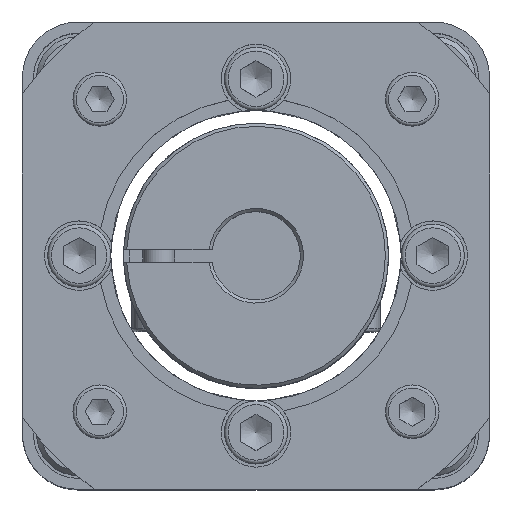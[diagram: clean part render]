
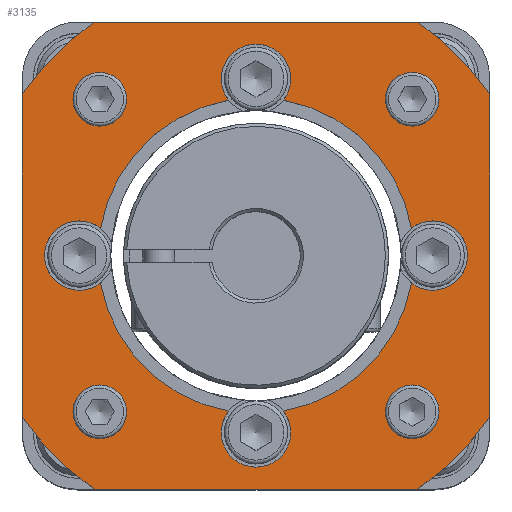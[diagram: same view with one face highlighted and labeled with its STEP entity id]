
A CAD part, top view. The second image highlights one B-rep face of the part: STEP entity #3135.
In plain terms, the highlighted planar face has unit normal (0, 0, 1).
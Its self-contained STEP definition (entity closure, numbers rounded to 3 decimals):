
#199=LINE($,#5139,#361);
#203=LINE($,#5151,#365);
#207=LINE($,#5163,#369);
#211=LINE($,#5174,#373);
#361=VECTOR($,#4178,51.225);
#365=VECTOR($,#4190,51.225);
#369=VECTOR($,#4202,51.225);
#373=VECTOR($,#4214,51.225);
#512=PLANE($,#3489);
#694=FACE_BOUND($,#1122,.T.);
#695=FACE_BOUND($,#1123,.T.);
#696=FACE_BOUND($,#1124,.T.);
#697=FACE_BOUND($,#1125,.T.);
#698=FACE_BOUND($,#1126,.T.);
#699=FACE_BOUND($,#1127,.T.);
#1122=EDGE_LOOP($,(#2547));
#1123=EDGE_LOOP($,(#2548));
#1124=EDGE_LOOP($,(#2549));
#1125=EDGE_LOOP($,(#2550));
#1126=EDGE_LOOP($,(#2551,#2552,#2553,#2554,#2555,#2556,#2557,#2558));
#1127=EDGE_LOOP($,(#2559,#2560,#2561,#2562,#2563,#2564,#2565,#2566));
#1341=CIRCLE($,#3396,2.067);
#1343=CIRCLE($,#3399,2.067);
#1345=CIRCLE($,#3402,2.067);
#1347=CIRCLE($,#3405,2.067);
#1352=CIRCLE($,#3412,5.5);
#1359=CIRCLE($,#3422,5.5);
#1366=CIRCLE($,#3432,5.5);
#1379=CIRCLE($,#3451,25.);
#1380=CIRCLE($,#3453,25.);
#1381=CIRCLE($,#3455,25.);
#1384=CIRCLE($,#3460,5.5);
#1390=CIRCLE($,#3470,25.);
#1391=CIRCLE($,#3473,45.);
#1393=CIRCLE($,#3477,45.);
#1395=CIRCLE($,#3481,45.);
#1397=CIRCLE($,#3485,45.);
#1552=VERTEX_POINT($,#4986);
#1554=VERTEX_POINT($,#4991);
#1556=VERTEX_POINT($,#4996);
#1558=VERTEX_POINT($,#5001);
#1564=VERTEX_POINT($,#5015);
#1565=VERTEX_POINT($,#5017);
#1574=VERTEX_POINT($,#5039);
#1575=VERTEX_POINT($,#5041);
#1584=VERTEX_POINT($,#5063);
#1585=VERTEX_POINT($,#5065);
#1595=VERTEX_POINT($,#5098);
#1597=VERTEX_POINT($,#5110);
#1602=VERTEX_POINT($,#5129);
#1603=VERTEX_POINT($,#5130);
#1606=VERTEX_POINT($,#5138);
#1608=VERTEX_POINT($,#5144);
#1610=VERTEX_POINT($,#5150);
#1612=VERTEX_POINT($,#5156);
#1614=VERTEX_POINT($,#5162);
#1616=VERTEX_POINT($,#5168);
#1874=EDGE_CURVE($,#1552,#1552,#1341,.T.);
#1876=EDGE_CURVE($,#1554,#1554,#1343,.T.);
#1878=EDGE_CURVE($,#1556,#1556,#1345,.T.);
#1880=EDGE_CURVE($,#1558,#1558,#1347,.T.);
#1887=EDGE_CURVE($,#1565,#1564,#1352,.T.);
#1898=EDGE_CURVE($,#1575,#1574,#1359,.T.);
#1909=EDGE_CURVE($,#1585,#1584,#1366,.T.);
#1926=EDGE_CURVE($,#1595,#1585,#1379,.T.);
#1928=EDGE_CURVE($,#1584,#1575,#1380,.T.);
#1929=EDGE_CURVE($,#1574,#1565,#1381,.T.);
#1932=EDGE_CURVE($,#1597,#1595,#1384,.T.);
#1939=EDGE_CURVE($,#1564,#1597,#1390,.T.);
#1940=EDGE_CURVE($,#1602,#1603,#1391,.T.);
#1944=EDGE_CURVE($,#1603,#1606,#199,.T.);
#1947=EDGE_CURVE($,#1606,#1608,#1393,.T.);
#1950=EDGE_CURVE($,#1608,#1610,#203,.T.);
#1953=EDGE_CURVE($,#1610,#1612,#1395,.T.);
#1956=EDGE_CURVE($,#1612,#1614,#207,.T.);
#1959=EDGE_CURVE($,#1614,#1616,#1397,.T.);
#1962=EDGE_CURVE($,#1616,#1602,#211,.T.);
#2547=ORIENTED_EDGE($,*,*,#1874,.T.);
#2548=ORIENTED_EDGE($,*,*,#1876,.T.);
#2549=ORIENTED_EDGE($,*,*,#1878,.T.);
#2550=ORIENTED_EDGE($,*,*,#1880,.T.);
#2551=ORIENTED_EDGE($,*,*,#1887,.T.);
#2552=ORIENTED_EDGE($,*,*,#1939,.T.);
#2553=ORIENTED_EDGE($,*,*,#1932,.T.);
#2554=ORIENTED_EDGE($,*,*,#1926,.T.);
#2555=ORIENTED_EDGE($,*,*,#1909,.T.);
#2556=ORIENTED_EDGE($,*,*,#1928,.T.);
#2557=ORIENTED_EDGE($,*,*,#1898,.T.);
#2558=ORIENTED_EDGE($,*,*,#1929,.T.);
#2559=ORIENTED_EDGE($,*,*,#1940,.F.);
#2560=ORIENTED_EDGE($,*,*,#1962,.F.);
#2561=ORIENTED_EDGE($,*,*,#1959,.F.);
#2562=ORIENTED_EDGE($,*,*,#1956,.F.);
#2563=ORIENTED_EDGE($,*,*,#1953,.F.);
#2564=ORIENTED_EDGE($,*,*,#1950,.F.);
#2565=ORIENTED_EDGE($,*,*,#1947,.F.);
#2566=ORIENTED_EDGE($,*,*,#1944,.F.);
#3135=ADVANCED_FACE($,(#694,#695,#696,#697,#698,#699),#512,.T.);
#3396=AXIS2_PLACEMENT_3D($,#4987,#4000,#4001);
#3399=AXIS2_PLACEMENT_3D($,#4992,#4006,#4007);
#3402=AXIS2_PLACEMENT_3D($,#4997,#4012,#4013);
#3405=AXIS2_PLACEMENT_3D($,#5002,#4018,#4019);
#3412=AXIS2_PLACEMENT_3D($,#5018,#4034,#4035);
#3422=AXIS2_PLACEMENT_3D($,#5042,#4058,#4059);
#3432=AXIS2_PLACEMENT_3D($,#5066,#4082,#4083);
#3451=AXIS2_PLACEMENT_3D($,#5099,#4124,#4125);
#3453=AXIS2_PLACEMENT_3D($,#5102,#4129,#4130);
#3455=AXIS2_PLACEMENT_3D($,#5104,#4133,#4134);
#3460=AXIS2_PLACEMENT_3D($,#5111,#4143,#4144);
#3470=AXIS2_PLACEMENT_3D($,#5126,#4164,#4165);
#3473=AXIS2_PLACEMENT_3D($,#5131,#4170,#4171);
#3477=AXIS2_PLACEMENT_3D($,#5145,#4183,#4184);
#3481=AXIS2_PLACEMENT_3D($,#5157,#4195,#4196);
#3485=AXIS2_PLACEMENT_3D($,#5169,#4207,#4208);
#3489=AXIS2_PLACEMENT_3D($,#5177,#4218,#4219);
#4000=DIRECTION('center_axis',(0.,0.,-1.));
#4001=DIRECTION('ref_axis',(0.,1.,0.));
#4006=DIRECTION('center_axis',(0.,0.,-1.));
#4007=DIRECTION('ref_axis',(-1.,0.,0.));
#4012=DIRECTION('center_axis',(0.,0.,-1.));
#4013=DIRECTION('ref_axis',(0.,-1.,0.));
#4018=DIRECTION('center_axis',(0.,0.,-1.));
#4019=DIRECTION('ref_axis',(1.,0.,0.));
#4034=DIRECTION('center_axis',(0.,0.,-1.));
#4035=DIRECTION('ref_axis',(0.,1.,0.));
#4058=DIRECTION('center_axis',(0.,0.,-1.));
#4059=DIRECTION('ref_axis',(-1.,0.,0.));
#4082=DIRECTION('center_axis',(0.,0.,-1.));
#4083=DIRECTION('ref_axis',(0.,-1.,0.));
#4124=DIRECTION('center_axis',(0.,0.,-1.));
#4125=DIRECTION('ref_axis',(-1.,0.,0.));
#4129=DIRECTION('center_axis',(0.,0.,-1.));
#4130=DIRECTION('ref_axis',(-1.,0.,0.));
#4133=DIRECTION('center_axis',(0.,0.,-1.));
#4134=DIRECTION('ref_axis',(-1.,0.,0.));
#4143=DIRECTION('center_axis',(0.,0.,-1.));
#4144=DIRECTION('ref_axis',(1.,0.,0.));
#4164=DIRECTION('center_axis',(0.,0.,-1.));
#4165=DIRECTION('ref_axis',(-1.,0.,0.));
#4170=DIRECTION('center_axis',(0.,0.,-1.));
#4171=DIRECTION('ref_axis',(1.,0.,0.));
#4178=DIRECTION($,(1.,0.,0.));
#4183=DIRECTION('center_axis',(0.,0.,-1.));
#4184=DIRECTION('ref_axis',(1.,0.,0.));
#4190=DIRECTION($,(0.,-1.,0.));
#4195=DIRECTION('center_axis',(0.,0.,-1.));
#4196=DIRECTION('ref_axis',(1.,0.,0.));
#4202=DIRECTION($,(-1.,0.,0.));
#4207=DIRECTION('center_axis',(0.,0.,-1.));
#4208=DIRECTION('ref_axis',(1.,0.,0.));
#4214=DIRECTION($,(0.,1.,0.));
#4218=DIRECTION('center_axis',(0.,0.,1.));
#4219=DIRECTION('ref_axis',(1.,0.,0.));
#4986=CARTESIAN_POINT('',(-24.749,26.816,14.));
#4987=CARTESIAN_POINT('Origin',(-24.749,24.749,14.));
#4991=CARTESIAN_POINT('',(-26.816,-24.749,14.));
#4992=CARTESIAN_POINT('Origin',(-24.749,-24.749,14.));
#4996=CARTESIAN_POINT('',(24.749,-26.816,14.));
#4997=CARTESIAN_POINT('Origin',(24.749,-24.749,14.));
#5001=CARTESIAN_POINT('',(26.816,24.749,14.));
#5002=CARTESIAN_POINT('Origin',(24.749,24.749,14.));
#5015=CARTESIAN_POINT('',(-24.621,4.339,14.));
#5017=CARTESIAN_POINT('',(-24.621,-4.339,14.));
#5018=CARTESIAN_POINT('Origin',(-28.,0.,14.));
#5039=CARTESIAN_POINT('',(-4.339,-24.621,14.));
#5041=CARTESIAN_POINT('',(4.339,-24.621,14.));
#5042=CARTESIAN_POINT('Origin',(0.,-28.,14.));
#5063=CARTESIAN_POINT('',(24.621,-4.339,14.));
#5065=CARTESIAN_POINT('',(24.621,4.339,14.));
#5066=CARTESIAN_POINT('Origin',(28.,0.,14.));
#5098=CARTESIAN_POINT('',(4.339,24.621,14.));
#5099=CARTESIAN_POINT('Origin',(0.,0.,14.));
#5102=CARTESIAN_POINT('Origin',(0.,0.,14.));
#5104=CARTESIAN_POINT('Origin',(0.,0.,14.));
#5110=CARTESIAN_POINT('',(-4.339,24.621,14.));
#5111=CARTESIAN_POINT('Origin',(0.,28.,14.));
#5126=CARTESIAN_POINT('Origin',(0.,0.,14.));
#5129=CARTESIAN_POINT('',(-37.,25.612,14.));
#5130=CARTESIAN_POINT('',(-25.612,37.,14.));
#5131=CARTESIAN_POINT('Origin',(0.,0.,14.));
#5138=CARTESIAN_POINT('',(25.612,37.,14.));
#5139=CARTESIAN_POINT($,(25.612,37.,14.));
#5144=CARTESIAN_POINT('',(37.,25.612,14.));
#5145=CARTESIAN_POINT('Origin',(0.,0.,14.));
#5150=CARTESIAN_POINT('',(37.,-25.612,14.));
#5151=CARTESIAN_POINT($,(37.,-25.612,14.));
#5156=CARTESIAN_POINT('',(25.612,-37.,14.));
#5157=CARTESIAN_POINT('Origin',(0.,0.,14.));
#5162=CARTESIAN_POINT('',(-25.612,-37.,14.));
#5163=CARTESIAN_POINT($,(-25.612,-37.,14.));
#5168=CARTESIAN_POINT('',(-37.,-25.612,14.));
#5169=CARTESIAN_POINT('Origin',(0.,0.,14.));
#5174=CARTESIAN_POINT($,(-37.,25.612,14.));
#5177=CARTESIAN_POINT('Origin',(0.,0.,
14.));
